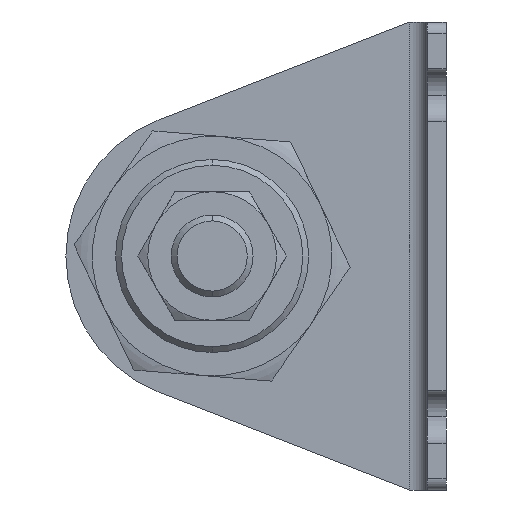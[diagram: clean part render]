
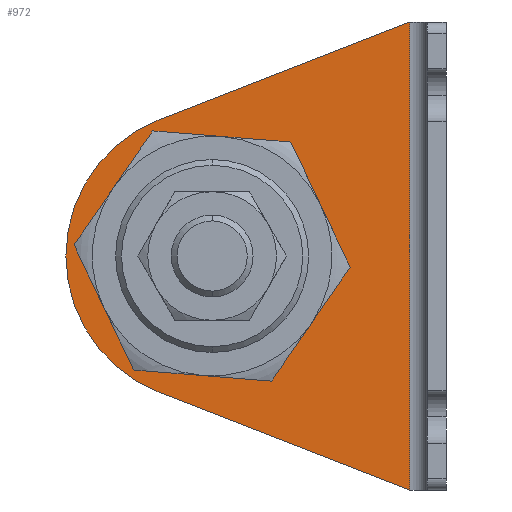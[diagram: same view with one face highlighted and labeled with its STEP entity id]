
A CAD part, left-side view. The second image highlights one B-rep face of the part: STEP entity #972.
In plain terms, the highlighted planar face has unit normal (-1, 0, 0) as drawn and (1, 0, 0) by its records, which use the part's own axes.
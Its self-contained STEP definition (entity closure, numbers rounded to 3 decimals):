
#14 = DIRECTION ( 'NONE',  ( 0., 1., 0. ) ) ;
#99 = ORIENTED_EDGE ( 'NONE', *, *, #1755, .F. ) ;
#189 = CARTESIAN_POINT ( 'NONE',  ( 3.2, 40., -40. ) ) ;
#215 = AXIS2_PLACEMENT_3D ( 'NONE', #4274, #3133, #2335 ) ;
#296 = DIRECTION ( 'NONE',  ( 1., 0., 0. ) ) ;
#389 = AXIS2_PLACEMENT_3D ( 'NONE', #189, #2718, #4444 ) ;
#403 = DIRECTION ( 'NONE',  ( 1., 0., 0. ) ) ;
#776 = CIRCLE ( 'NONE', #4172, 16.5 ) ;
#794 = CIRCLE ( 'NONE', #389, 16.5 ) ;
#858 = CARTESIAN_POINT ( 'NONE',  ( 3.2, 56.5, -40. ) ) ;
#877 = FACE_BOUND ( 'NONE', #1908, .T. ) ;
#911 = CARTESIAN_POINT ( 'NONE',  ( 3.2, 6.2, -80. ) ) ;
#924 = EDGE_CURVE ( 'NONE', #3668, #2155, #3669, .T. ) ;
#972 = ADVANCED_FACE ( 'NONE', ( #877, #3193 ), #1324, .T. ) ;
#1041 = VECTOR ( 'NONE', #3602, 1000. ) ;
#1081 = CARTESIAN_POINT ( 'NONE',  ( 3.2, 40., -40. ) ) ;
#1201 = ORIENTED_EDGE ( 'NONE', *, *, #3921, .T. ) ;
#1243 = CARTESIAN_POINT ( 'NONE',  ( 3.2, 49.076, -63.294 ) ) ;
#1324 = PLANE ( 'NONE',  #2275 ) ;
#1538 = DIRECTION ( 'NONE',  ( 0., 0.932, 0.363 ) ) ;
#1680 = EDGE_CURVE ( 'NONE', #3759, #1751, #3044, .T. ) ;
#1751 = VERTEX_POINT ( 'NONE', #4390 ) ;
#1755 = EDGE_CURVE ( 'NONE', #3340, #3528, #776, .T. ) ;
#1813 = CARTESIAN_POINT ( 'NONE',  ( 3.2, 30.657, -9.529 ) ) ;
#1849 = AXIS2_PLACEMENT_3D ( 'NONE', #1854, #403, #14 ) ;
#1854 = CARTESIAN_POINT ( 'NONE',  ( 3.2, 40., -40. ) ) ;
#1907 = CARTESIAN_POINT ( 'NONE',  ( 3.2, 6.2, -80. ) ) ;
#1908 = EDGE_LOOP ( 'NONE', ( #99, #2392 ) ) ;
#1943 = EDGE_CURVE ( 'NONE', #3528, #3340, #794, .T. ) ;
#2046 = VECTOR ( 'NONE', #1538, 1000. ) ;
#2155 = VERTEX_POINT ( 'NONE', #1243 ) ;
#2168 = ORIENTED_EDGE ( 'NONE', *, *, #924, .T. ) ;
#2255 = VERTEX_POINT ( 'NONE', #2305 ) ;
#2275 = AXIS2_PLACEMENT_3D ( 'NONE', #3752, #296, #3411 ) ;
#2305 = CARTESIAN_POINT ( 'NONE',  ( 3.2, 65., -40. ) ) ;
#2335 = DIRECTION ( 'NONE',  ( 0., 1., 0. ) ) ;
#2343 = EDGE_CURVE ( 'NONE', #3759, #3668, #4055, .T. ) ;
#2392 = ORIENTED_EDGE ( 'NONE', *, *, #1943, .F. ) ;
#2461 = DIRECTION ( 'NONE',  ( 1., 0., 0. ) ) ;
#2484 = CIRCLE ( 'NONE', #215, 25. ) ;
#2718 = DIRECTION ( 'NONE',  ( 1., 0., 0. ) ) ;
#2741 = EDGE_CURVE ( 'NONE', #2255, #1751, #2484, .T. ) ;
#2968 = ORIENTED_EDGE ( 'NONE', *, *, #1680, .F. ) ;
#2973 = DIRECTION ( 'NONE',  ( 0., 1., 0. ) ) ;
#3037 = CARTESIAN_POINT ( 'NONE',  ( 3.2, 23.5, -40. ) ) ;
#3044 = LINE ( 'NONE', #1813, #1041 ) ;
#3109 = EDGE_LOOP ( 'NONE', ( #2168, #1201, #3395, #2968, #3855 ) ) ;
#3133 = DIRECTION ( 'NONE',  ( 1., 0., 0. ) ) ;
#3193 = FACE_OUTER_BOUND ( 'NONE', #3109, .T. ) ;
#3264 = CARTESIAN_POINT ( 'NONE',  ( 3.2, 3.595, -81.015 ) ) ;
#3340 = VERTEX_POINT ( 'NONE', #858 ) ;
#3395 = ORIENTED_EDGE ( 'NONE', *, *, #2741, .T. ) ;
#3411 = DIRECTION ( 'NONE',  ( 0., 1., 0. ) ) ;
#3528 = VERTEX_POINT ( 'NONE', #3037 ) ;
#3602 = DIRECTION ( 'NONE',  ( 0., 0.932, -0.363 ) ) ;
#3619 = DIRECTION ( 'NONE',  ( 0., 0., -1. ) ) ;
#3668 = VERTEX_POINT ( 'NONE', #911 ) ;
#3669 = LINE ( 'NONE', #3264, #2046 ) ;
#3752 = CARTESIAN_POINT ( 'NONE',  ( 3.2, 3.2, -80. ) ) ;
#3759 = VERTEX_POINT ( 'NONE', #4233 ) ;
#3855 = ORIENTED_EDGE ( 'NONE', *, *, #2343, .T. ) ;
#3918 = VECTOR ( 'NONE', #3619, 1000. ) ;
#3921 = EDGE_CURVE ( 'NONE', #2155, #2255, #4167, .T. ) ;
#4055 = LINE ( 'NONE', #1907, #3918 ) ;
#4167 = CIRCLE ( 'NONE', #1849, 25. ) ;
#4172 = AXIS2_PLACEMENT_3D ( 'NONE', #1081, #2461, #2973 ) ;
#4233 = CARTESIAN_POINT ( 'NONE',  ( 3.2, 6.2, 0. ) ) ;
#4274 = CARTESIAN_POINT ( 'NONE',  ( 3.2, 40., -40. ) ) ;
#4390 = CARTESIAN_POINT ( 'NONE',  ( 3.2, 49.076, -16.706 ) ) ;
#4444 = DIRECTION ( 'NONE',  ( 0., 1., 0. ) ) ;
